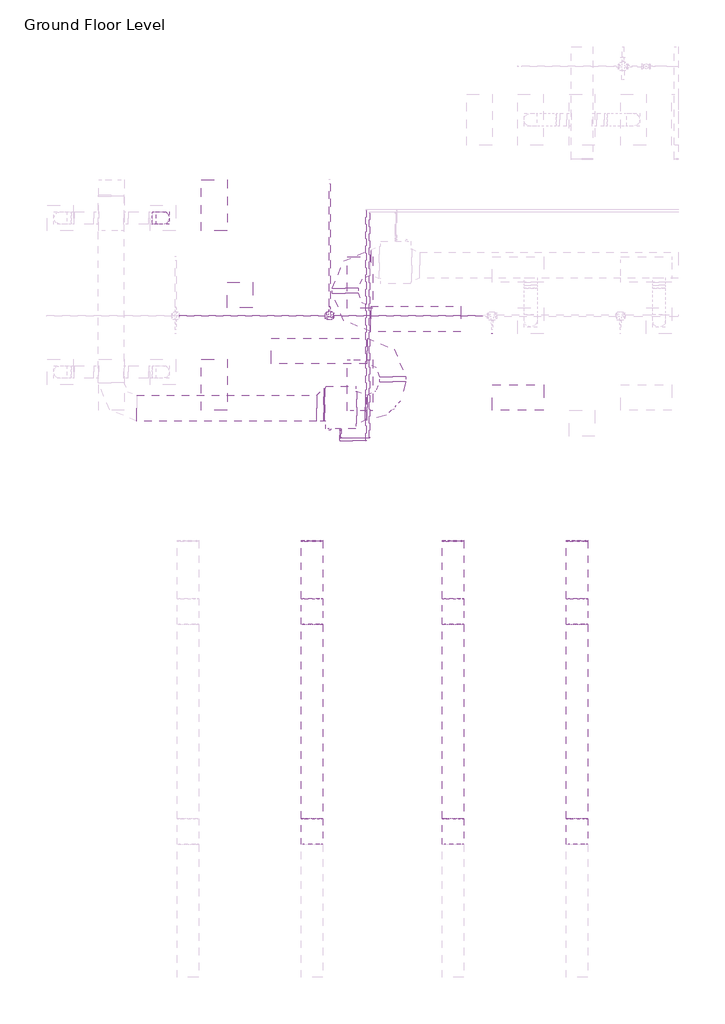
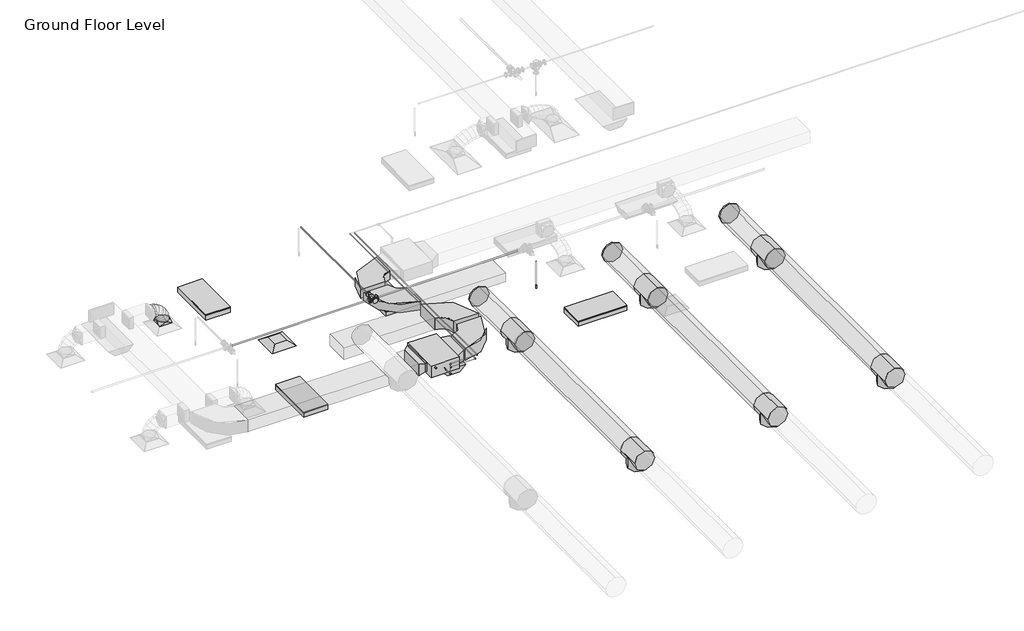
# One storey, part 11 of 74: 16 duct fittings, 14 duct segments, 12 pipe segments, 8 pipe fittings, 5 light fixtures, 1 air terminal, 1 fire suppression terminal, 1 proxy.
"""IFC4 building model written with IfcOpenShell, lengths in millimetres."""

from ifc_helpers import new_model, si_unit, point, frame, frame_2d, origin, place, context, project, spatial, polyline, circle_curve, ellipse_curve, trimmed, segment, composite_curve, outline, extrude, transform, mapped, element, save
from ifc_brep_helpers import plane_surface, cylinder_surface, advanced_brep
from components import m_return_diffuser_600_x_600_face_300_x_300_connection_ff221211, fcu_daikin_iu_7e1df382, m_rectangular_elbow_radius_1_w_907e8aaa, m_rectangular_elbow_radius_1_w_c6ed0251, m_rectangular_transition_angle_45_degree_cf32fe34, m_rectangular_transition_angle_45_degree_023bf680, m_rectangular_to_round_transition_angle_45_degree_641efff0, m_round_endcap_standard_1c45c55c, m_round_tee_standard_ed589d36, m_sprinkler_dry_pendent_hosted_15_mm_dry_pendent_9bda8e11, m_emergency_recessed_lighting_fixture_600x1200_277_5b10b25d, m_troffer_light_parabolic_rectangular1_0600x1200mm_4_lamp_86473d4a, m_elbow_generic_standard_a088f956, m_elbow_generic_standard_2a704253, m_elbow_generic_standard_4cd29557, m_elbow_generic_standard_9f216293, m_reducer_flanged_cs_class_150_standard_ccf252ad, m_tee_round_base_flanged_cs_class_150_standard_7e5987a1

model = new_model("IFC4")

# Units and contexts
model_context = context("Model", 3, world=origin())
ifc_project = project(units=[si_unit("LENGTHUNIT", "METRE", prefix="MILLI")], contexts=[model_context])

# Site, building, storey
site = spatial("IfcSite", under=ifc_project)
building = spatial("IfcBuilding", under=site)
storey = spatial("IfcBuildingStorey", under=building, Name="Ground Floor Level", Elevation=900.0)

# Air terminal
placement = place(None, origin())
m_return_diffuser_600_x_600_face_300_x_300_connection_shape = m_return_diffuser_600_x_600_face_300_x_300_connection_ff221211(model_context)
element("IfcAirTerminal", 1, ObjectType="M_Return Diffuser : 600 x 600 Face 300 x 300 Connection", at=placement, inside=storey, context=model_context, shape_type="MappedRepresentation", body=[
    mapped(m_return_diffuser_600_x_600_face_300_x_300_connection_shape, transform((-14937.2327605, -2464.7846466, 3650.0), x_axis=(1.0, 0.0, 0.0), y_axis=(0.0, 1.0, 0.0), z_axis=(0.0, 0.0, 1.0))),
])

# Proxy
fcu_daikin_iu_shape = fcu_daikin_iu_7e1df382(model_context)
element("IfcBuildingElementProxy", 2, Name="FCU-DAIKIN IU : 5.7kW, 230V/50Hz/1Ph", ObjectType="FCU-DAIKIN IU : 5.7kW, 230V/50Hz/1Ph", at=placement, inside=storey, context=model_context, shape_type="MappedRepresentation", body=[
    mapped(fcu_daikin_iu_shape, transform((-12577.2327605, -5093.8471466, 3934.0895647), x_axis=(0.0, -1.0, 0.0), y_axis=(1.0, 0.0, 0.0), z_axis=(0.0, 0.0, 1.0))),
])

# Duct fittings
m_rectangular_elbow_radius_1_w_shape = m_rectangular_elbow_radius_1_w_907e8aaa(model_context)
element("IfcDuctFitting", 3, ObjectType="M_Rectangular Elbow - Radius : 1 W", at=placement, inside=storey, context=model_context, shape_type="MappedRepresentation", body=[
    mapped(m_rectangular_elbow_radius_1_w_shape, transform((-12472.6327605, -1704.7846466, 4075.2873731), x_axis=(-1.0, 0.0, 0.0), y_axis=(0.0, -1.0, 0.0), z_axis=(0.0, 0.0, 1.0))),
])
element("IfcDuctFitting", 4, ObjectType="M_Rectangular Elbow - Radius : 1 W", at=placement, inside=storey, context=model_context, shape_type="MappedRepresentation", body=[
    mapped(m_rectangular_elbow_radius_1_w_shape, transform((-12472.6327605, -3024.7846466, 4075.2873731), x_axis=(0.0, -1.0, 0.0), y_axis=(1.0, 0.0, 0.0), z_axis=(0.0, 0.0, 1.0))),
])
m_rectangular_elbow_radius_1_w_2_shape = m_rectangular_elbow_radius_1_w_c6ed0251(model_context)
element("IfcDuctFitting", 5, ObjectType="M_Rectangular Elbow - Radius : 1 W", at=placement, inside=storey, context=model_context, shape_type="MappedRepresentation", body=[
    mapped(m_rectangular_elbow_radius_1_w_2_shape, transform((-11361.8327606, -5093.8471466, 4075.3020647), x_axis=(0.9999999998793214, 0.0, 1.5535678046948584e-05), y_axis=(0.0, 1.0000000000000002, 0.0), z_axis=(-1.5535678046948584e-05, 0.0, 0.9999999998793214))),
])
element("IfcDuctFitting", 6, ObjectType="M_Rectangular Elbow - Radius : 1 W", at=placement, inside=storey, context=model_context, shape_type="MappedRepresentation", body=[
    mapped(m_rectangular_elbow_radius_1_w_2_shape, transform((-11361.8327606, -3773.8471466, 4075.3020647), x_axis=(0.0, 1.0, 0.0), y_axis=(-1.0, 0.0, 0.0), z_axis=(0.0, 0.0, 1.0))),
])
m_rectangular_transition_angle_45_degree_shape = m_rectangular_transition_angle_45_degree_cf32fe34(model_context)
element("IfcDuctFitting", 7, ObjectType="M_Rectangular Transition - Angle : 45 Degree", at=placement, inside=storey, context=model_context, shape_type="MappedRepresentation", body=[
    mapped(m_rectangular_transition_angle_45_degree_shape, transform((-12972.63276, -5030.3471466, 4100.0020647), x_axis=(-0.9999999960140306, 0.0, -8.928571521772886e-05), y_axis=(0.0, -1.0, 0.0), z_axis=(-8.928571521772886e-05, 0.0, 0.9999999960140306))),
])
m_rectangular_transition_angle_45_degree_2_shape = m_rectangular_transition_angle_45_degree_023bf680(model_context)
element("IfcDuctFitting", 8, ObjectType="M_Rectangular Transition - Angle : 45 Degree", at=placement, inside=storey, context=model_context, shape_type="MappedRepresentation", body=[
    mapped(m_rectangular_transition_angle_45_degree_2_shape, transform((-12201.8327605, -5093.8471466, 4075.2895647), x_axis=(1.0, 0.0, 0.0), y_axis=(0.0, 1.0, 0.0), z_axis=(0.0, 0.0, 1.0))),
])
m_rectangular_to_round_transition_angle_45_degree_shape = m_rectangular_to_round_transition_angle_45_degree_641efff0(model_context)
element("IfcDuctFitting", 9, ObjectType="M_Rectangular to Round Transition - Angle : 45 Degree", at=placement, inside=storey, context=model_context, shape_type="MappedRepresentation", body=[
    mapped(m_rectangular_to_round_transition_angle_45_degree_shape, transform((-16737.2327605, -664.7846466, 3751.6), x_axis=(0.0, 0.0, 1.0), y_axis=(-1.0, 0.0, 0.0), z_axis=(0.0, -1.0, 0.0))),
])
m_round_endcap_standard_shape = m_round_endcap_standard_1c45c55c(model_context)
element("IfcDuctFitting", 10, ObjectType="M_Round Endcap : Standard", at=placement, inside=storey, context=model_context, shape_type="MappedRepresentation", body=[
    mapped(m_round_endcap_standard_shape, transform((-13250.3527512, -8221.0125677, 7765.9), x_axis=(0.0, 0.9999999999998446, -5.576948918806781e-07), y_axis=(-1.0000000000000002, 0.0, 0.0), z_axis=(0.0, 5.576948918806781e-07, 0.9999999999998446))),
])
element("IfcDuctFitting", 11, ObjectType="M_Round Endcap : Standard", at=placement, inside=storey, context=model_context, shape_type="MappedRepresentation", body=[
    mapped(m_round_endcap_standard_shape, transform((-9950.3527512, -8221.0125677, 7765.9), x_axis=(0.0, 0.9999999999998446, -5.576948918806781e-07), y_axis=(-1.0000000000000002, 0.0, 0.0), z_axis=(0.0, 5.576948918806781e-07, 0.9999999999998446))),
])
element("IfcDuctFitting", 12, ObjectType="M_Round Endcap : Standard", at=placement, inside=storey, context=model_context, shape_type="MappedRepresentation", body=[
    mapped(m_round_endcap_standard_shape, transform((-7050.3527512, -8221.0125677, 7765.9), x_axis=(0.0, 0.9999999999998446, -5.576948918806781e-07), y_axis=(-1.0000000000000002, 0.0, 0.0), z_axis=(0.0, 5.576948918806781e-07, 0.9999999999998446))),
])
m_round_tee_standard_shape = m_round_tee_standard_ed589d36(model_context)
element("IfcDuctFitting", 13, ObjectType="M_Round Tee : Standard", at=placement, inside=storey, context=model_context, shape_type="MappedRepresentation", body=[
    mapped(m_round_tee_standard_shape, transform((-13250.3527512, -9864.7844235, 7765.9009947), x_axis=(0.0, 0.9999999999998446, -5.576948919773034e-07), y_axis=(0.0, 5.576948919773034e-07, 0.9999999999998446), z_axis=(1.0, 0.0, 0.0))),
])
element("IfcDuctFitting", 14, ObjectType="M_Round Tee : Standard", at=placement, inside=storey, context=model_context, shape_type="MappedRepresentation", body=[
    mapped(m_round_tee_standard_shape, transform((-13250.3527512, -15012.784348, 7765.9038657), x_axis=(0.0, 0.9999999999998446, -5.576948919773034e-07), y_axis=(0.0, 5.576948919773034e-07, 0.9999999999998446), z_axis=(1.0, 0.0, 0.0))),
])
element("IfcDuctFitting", 15, ObjectType="M_Round Tee : Standard", at=placement, inside=storey, context=model_context, shape_type="MappedRepresentation", body=[
    mapped(m_round_tee_standard_shape, transform((-9950.3527512, -9864.7844235, 7765.9009947), x_axis=(0.0, 0.9999999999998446, -5.576948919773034e-07), y_axis=(0.0, 5.576948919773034e-07, 0.9999999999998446), z_axis=(1.0, 0.0, 0.0))),
])
element("IfcDuctFitting", 16, ObjectType="M_Round Tee : Standard", at=placement, inside=storey, context=model_context, shape_type="MappedRepresentation", body=[
    mapped(m_round_tee_standard_shape, transform((-9950.3527512, -15012.784348, 7765.9038657), x_axis=(0.0, 0.9999999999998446, -5.576948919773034e-07), y_axis=(0.0, 5.576948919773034e-07, 0.9999999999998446), z_axis=(1.0, 0.0, 0.0))),
])
element("IfcDuctFitting", 17, ObjectType="M_Round Tee : Standard", at=placement, inside=storey, context=model_context, shape_type="MappedRepresentation", body=[
    mapped(m_round_tee_standard_shape, transform((-7050.3527512, -9864.7844235, 7765.9009947), x_axis=(0.0, 0.9999999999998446, -5.576948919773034e-07), y_axis=(0.0, 5.576948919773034e-07, 0.9999999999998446), z_axis=(1.0, 0.0, 0.0))),
])
element("IfcDuctFitting", 18, ObjectType="M_Round Tee : Standard", at=placement, inside=storey, context=model_context, shape_type="MappedRepresentation", body=[
    mapped(m_round_tee_standard_shape, transform((-7050.3527512, -15012.784348, 7765.9038657), x_axis=(0.0, 0.9999999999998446, -5.576948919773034e-07), y_axis=(0.0, 5.576948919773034e-07, 0.9999999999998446), z_axis=(1.0, 0.0, 0.0))),
])

# Duct segments
element("IfcDuctSegment", 19, ObjectType="Flex - Round", at=placement, inside=storey, context=model_context, shape_type="AdvancedBrep", body=[
    advanced_brep(
    [(-16587.2327605, -664.7846466, 3826.6), (-16737.2327605, -814.7846466, 3826.6), (-16887.2327605, -664.7846466, 3826.6), (-16737.2327605, -514.7846466, 3826.6), (-16587.2327605, -664.7846466, 3876.1927096), (-16737.2327605, -814.7846466, 3854.3867302), (-16887.2327605, -664.7846466, 3832.5807508), (-16737.2327605, -514.7846466, 3854.3867302), (-16611.9605873, -664.7846466, 3959.4447987), (-16751.5699162, -814.7846466, 3902.6561626), (-16891.1792451, -664.7846466, 3845.8675264), (-16751.5699162, -514.7846466, 3902.6561626), (-16666.3134835, -664.7846466, 4062.8525006), (-16790.3375927, -814.7846466, 3976.4126063), (-16914.3617019, -664.7846466, 3889.9727121), (-16790.3375927, -514.7846466, 3976.4126063), (-16749.2073595, -664.7846466, 4154.8420293), (-16847.1701043, -814.7846466, 4039.481149), (-16945.132849, -664.7846466, 3924.1202687), (-16847.1701043, -514.7846466, 4039.481149), (-16846.5982823, -664.7846466, 4217.3600851), (-16915.7017653, -814.7846466, 4083.4736083), (-16984.8052483, -664.7846466, 3949.5871315), (-16915.7017653, -514.7846466, 4083.4736083), (-16927.78853, -664.7846466, 4250.0018019), (-16956.8125972, -814.7846466, 4100.0018019), (-16985.8366644, -664.7846466, 3950.0018019), (-16956.8125972, -514.7846466, 4100.0018019), (-16989.5668899, -664.7846466, 4250.0018019), (-16989.5668899, -514.7846466, 4100.0018019), (-16989.5668899, -664.7846466, 3950.0018019), (-16989.5668899, -814.7846466, 4100.0018019)],
    [
        (0, 1, circle_curve(frame((-16737.2327605, -664.7846466, 3826.6), z_axis=(0.0, 0.0, -1.0), x_axis=(1.0, 0.0, 0.0)), 150.0)),
        (1, 2, circle_curve(frame((-16737.2327605, -664.7846466, 3826.6), z_axis=(0.0, 0.0, -1.0), x_axis=(1.0, 0.0, 0.0)), 150.0)),
        (2, 3, circle_curve(frame((-16737.2327605, -664.7846466, 3826.6), z_axis=(0.0, 0.0, -1.0), x_axis=(1.0, 0.0, 0.0)), 150.0)),
        (3, 0, circle_curve(frame((-16737.2327605, -664.7846466, 3826.6), z_axis=(0.0, 0.0, -1.0), x_axis=(1.0, 0.0, 0.0)), 150.0)),
        (0, 4),
        (4, 5, ellipse_curve(frame((-16737.2327605, -664.7846466, 3854.3867302), z_axis=(0.1438610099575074, 0.0, -0.9895979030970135), x_axis=(-0.9895979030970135, 0.0, -0.14386100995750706)), 151.5767157, 150.0)),
        (5, 1),
        (5, 6, ellipse_curve(frame((-16737.2327605, -664.7846466, 3854.3867302), z_axis=(0.1438610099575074, 0.0, -0.9895979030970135), x_axis=(-0.9895979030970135, 0.0, -0.14386100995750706)), 151.5767157, 150.0)),
        (6, 2),
        (6, 7, ellipse_curve(frame((-16737.2327605, -664.7846466, 3854.3867302), z_axis=(0.1438610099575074, 0.0, -0.9895979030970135), x_axis=(-0.9895979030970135, 0.0, -0.14386100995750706)), 151.5767157, 150.0)),
        (7, 3),
        (7, 4, ellipse_curve(frame((-16737.2327605, -664.7846466, 3854.3867302), z_axis=(0.1438610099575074, 0.0, -0.9895979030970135), x_axis=(-0.9895979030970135, 0.0, -0.14386100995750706)), 151.5767157, 150.0)),
        (4, 8),
        (8, 9, ellipse_curve(frame((-16751.5699162, -664.7846466, 3902.6561626), z_axis=(0.37678902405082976, 0.0, -0.9262991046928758), x_axis=(-0.9262991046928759, 0.0, -0.37678902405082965)), 150.7173312, 150.0)),
        (9, 5),
        (9, 10, ellipse_curve(frame((-16751.5699162, -664.7846466, 3902.6561626), z_axis=(0.37678902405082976, 0.0, -0.9262991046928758), x_axis=(-0.9262991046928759, 0.0, -0.37678902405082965)), 150.7173312, 150.0)),
        (10, 6),
        (10, 11, ellipse_curve(frame((-16751.5699162, -664.7846466, 3902.6561626), z_axis=(0.37678902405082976, 0.0, -0.9262991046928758), x_axis=(-0.9262991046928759, 0.0, -0.37678902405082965)), 150.7173312, 150.0)),
        (11, 7),
        (11, 8, ellipse_curve(frame((-16751.5699162, -664.7846466, 3902.6561626), z_axis=(0.37678902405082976, 0.0, -0.9262991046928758), x_axis=(-0.9262991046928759, 0.0, -0.37678902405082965)), 150.7173312, 150.0)),
        (8, 12),
        (12, 13, ellipse_curve(frame((-16790.3375927, -664.7846466, 3976.4126063), z_axis=(0.5717875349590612, 0.0, -0.8204017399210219), x_axis=(-0.8204017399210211, 0.0, -0.5717875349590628)), 151.174849, 150.0)),
        (13, 9),
        (13, 14, ellipse_curve(frame((-16790.3375927, -664.7846466, 3976.4126063), z_axis=(0.5717875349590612, 0.0, -0.8204017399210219), x_axis=(-0.8204017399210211, 0.0, -0.5717875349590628)), 151.174849, 150.0)),
        (14, 10),
        (14, 15, ellipse_curve(frame((-16790.3375927, -664.7846466, 3976.4126063), z_axis=(0.5717875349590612, 0.0, -0.8204017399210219), x_axis=(-0.8204017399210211, 0.0, -0.5717875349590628)), 151.174849, 150.0)),
        (15, 11),
        (15, 12, ellipse_curve(frame((-16790.3375927, -664.7846466, 3976.4126063), z_axis=(0.5717875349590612, 0.0, -0.8204017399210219), x_axis=(-0.8204017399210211, 0.0, -0.5717875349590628)), 151.174849, 150.0)),
        (12, 16),
        (16, 17, ellipse_curve(frame((-16847.1701043, -664.7846466, 4039.481149), z_axis=(0.7622457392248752, 0.0, -0.6472877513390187), x_axis=(-0.6472877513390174, 0.0, -0.7622457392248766)), 151.3434242, 150.0)),
        (17, 13),
        (17, 18, ellipse_curve(frame((-16847.1701043, -664.7846466, 4039.481149), z_axis=(0.7622457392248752, 0.0, -0.6472877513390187), x_axis=(-0.6472877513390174, 0.0, -0.7622457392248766)), 151.3434242, 150.0)),
        (18, 14),
        (18, 19, ellipse_curve(frame((-16847.1701043, -664.7846466, 4039.481149), z_axis=(0.7622457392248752, 0.0, -0.6472877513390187), x_axis=(-0.6472877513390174, 0.0, -0.7622457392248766)), 151.3434242, 150.0)),
        (19, 15),
        (19, 16, ellipse_curve(frame((-16847.1701043, -664.7846466, 4039.481149), z_axis=(0.7622457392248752, 0.0, -0.6472877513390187), x_axis=(-0.6472877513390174, 0.0, -0.7622457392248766)), 151.3434242, 150.0)),
        (16, 20),
        (20, 21, ellipse_curve(frame((-16915.7017653, -664.7846466, 4083.4736083), z_axis=(0.8886185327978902, 0.0, -0.45864703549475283), x_axis=(-0.4586470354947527, 0.0, -0.8886185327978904)), 150.6681122, 150.0)),
        (21, 17),
        (21, 22, ellipse_curve(frame((-16915.7017653, -664.7846466, 4083.4736083), z_axis=(0.8886185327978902, 0.0, -0.45864703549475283), x_axis=(-0.4586470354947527, 0.0, -0.8886185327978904)), 150.6681122, 150.0)),
        (22, 18),
        (22, 23, ellipse_curve(frame((-16915.7017653, -664.7846466, 4083.4736083), z_axis=(0.8886185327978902, 0.0, -0.45864703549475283), x_axis=(-0.4586470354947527, 0.0, -0.8886185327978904)), 150.6681122, 150.0)),
        (23, 19),
        (23, 20, ellipse_curve(frame((-16915.7017653, -664.7846466, 4083.4736083), z_axis=(0.8886185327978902, 0.0, -0.45864703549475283), x_axis=(-0.4586470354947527, 0.0, -0.8886185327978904)), 150.6681122, 150.0)),
        (20, 24),
        (24, 25, ellipse_curve(frame((-16956.8125972, -664.7846466, 4100.0018019), z_axis=(0.9817898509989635, 0.0, -0.18997023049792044), x_axis=(-0.18997023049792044, 0.0, -0.9817898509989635)), 152.7821864, 150.0)),
        (25, 21),
        (25, 26, ellipse_curve(frame((-16956.8125972, -664.7846466, 4100.0018019), z_axis=(0.9817898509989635, 0.0, -0.18997023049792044), x_axis=(-0.18997023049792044, 0.0, -0.9817898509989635)), 152.7821864, 150.0)),
        (26, 22),
        (26, 27, ellipse_curve(frame((-16956.8125972, -664.7846466, 4100.0018019), z_axis=(0.9817898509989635, 0.0, -0.18997023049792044), x_axis=(-0.18997023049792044, 0.0, -0.9817898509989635)), 152.7821864, 150.0)),
        (27, 23),
        (27, 24, ellipse_curve(frame((-16956.8125972, -664.7846466, 4100.0018019), z_axis=(0.9817898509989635, 0.0, -0.18997023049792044), x_axis=(-0.18997023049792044, 0.0, -0.9817898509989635)), 152.7821864, 150.0)),
        (28, 29, circle_curve(frame((-16989.5668899, -664.7846466, 4100.0018019), z_axis=(-1.0, 0.0, 0.0), x_axis=(0.0, 0.0, 1.0)), 150.0)),
        (29, 30, circle_curve(frame((-16989.5668899, -664.7846466, 4100.0018019), z_axis=(-1.0, 0.0, 0.0), x_axis=(0.0, 0.0, 1.0)), 150.0)),
        (30, 31, circle_curve(frame((-16989.5668899, -664.7846466, 4100.0018019), z_axis=(-1.0, 0.0, 0.0), x_axis=(0.0, 0.0, 1.0)), 150.0)),
        (31, 28, circle_curve(frame((-16989.5668899, -664.7846466, 4100.0018019), z_axis=(-1.0, 0.0, 0.0), x_axis=(0.0, 0.0, 1.0)), 150.0)),
        (24, 28),
        (31, 25),
        (30, 26),
        (29, 27),
    ],
    [
        plane_surface(frame((-16737.2327605, -814.7846466, 3826.6), z_axis=(0.0, 0.0, -1.0), x_axis=(1.0, 0.0, 0.0))),
        cylinder_surface(frame((-16737.2327605, -664.7846466, 3826.6), z_axis=(0.0, 0.0, -1.0), x_axis=(1.0, 0.0, 0.0)), 150.0),
        cylinder_surface(frame((-16737.2327605, -664.7846466, 3854.3867302), z_axis=(0.28472910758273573, 0.0, -0.958608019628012), x_axis=(0.958608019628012, 0.0, 0.28472910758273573)), 150.0),
        cylinder_surface(frame((-16751.5699162, -664.7846466, 3902.6561626), z_axis=(0.46526232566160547, 0.0, -0.8851728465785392), x_axis=(0.8851728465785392, 0.0, 0.46526232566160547)), 150.0),
        cylinder_surface(frame((-16790.3375927, -664.7846466, 3976.4126063), z_axis=(0.6694254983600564, 0.0, -0.7428791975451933), x_axis=(0.7428791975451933, 0.0, 0.6694254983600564)), 150.0),
        cylinder_surface(frame((-16847.1701043, -664.7846466, 4039.481149), z_axis=(0.8415335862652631, 0.0, -0.5402047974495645), x_axis=(0.5402047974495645, 0.0, 0.8415335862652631)), 150.0),
        cylinder_surface(frame((-16915.7017653, -664.7846466, 4083.4736083), z_axis=(0.9278226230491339, 0.0, -0.3730216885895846), x_axis=(0.3730216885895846, 0.0, 0.9278226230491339)), 150.0),
        plane_surface(frame((-16989.5668899, -664.7846466, 3950.0018019), z_axis=(-1.0, 0.0, 0.0), x_axis=(0.0, -1.0, 0.0))),
        cylinder_surface(frame((-16956.8125972, -664.7846466, 4100.0018019), z_axis=(1.0, 0.0, 0.0), x_axis=(0.0, 0.0, 1.0)), 150.0),
    ],
    [
        (0, [[1, 2, 3, 4]]),
        (1, [[-1, 5, 6, 7]]),
        (1, [[-2, -7, 8, 9]]),
        (1, [[-3, -9, 10, 11]]),
        (1, [[-4, -11, 12, -5]]),
        (2, [[-6, 13, 14, 15]]),
        (2, [[-8, -15, 16, 17]]),
        (2, [[-10, -17, 18, 19]]),
        (2, [[-12, -19, 20, -13]]),
        (3, [[-14, 21, 22, 23]]),
        (3, [[-16, -23, 24, 25]]),
        (3, [[-18, -25, 26, 27]]),
        (3, [[-20, -27, 28, -21]]),
        (4, [[-22, 29, 30, 31]]),
        (4, [[-24, -31, 32, 33]]),
        (4, [[-26, -33, 34, 35]]),
        (4, [[-28, -35, 36, -29]]),
        (5, [[-30, 37, 38, 39]]),
        (5, [[-32, -39, 40, 41]]),
        (5, [[-34, -41, 42, 43]]),
        (5, [[-36, -43, 44, -37]]),
        (6, [[-38, 45, 46, 47]]),
        (6, [[-40, -47, 48, 49]]),
        (6, [[-42, -49, 50, 51]]),
        (6, [[-44, -51, 52, -45]]),
        (7, [[53, 54, 55, 56]]),
        (8, [[-46, 57, -56, 58]]),
        (8, [[-48, -58, -55, 59]]),
        (8, [[-50, -59, -54, 60]]),
        (8, [[-52, -60, -53, -57]]),
    ],
),
])
element("IfcDuctSegment", 20, ObjectType="Radius Elbows / Taps", at=placement, inside=storey, context=model_context, shape_type="SweptSolid", body=[
    extrude(outline(polyline([(-12772.6327605, -2304.7846466), (-12172.6327605, -2304.7846466), (-12172.6327605, -2424.7846466), (-12772.6327605, -2424.7846466), (-12772.6327605, -2304.7846466)])), frame((0.0, 0.0, 3968.2873731), z_axis=(0.0, 0.0, 1.0), x_axis=(1.0, 0.0, 0.0)), (0.0, 0.0, 1.0), 214.0),
])
element("IfcDuctSegment", 21, ObjectType="Radius Elbows / Taps", at=placement, inside=storey, context=model_context, shape_type="SweptSolid", body=[
    extrude(outline(polyline([(-11872.6327605, -3324.7846466), (-11872.6327605, -2724.7846466), (-9772.6327605, -2724.7846466), (-9772.6327605, -3324.7846466), (-11872.6327605, -3324.7846466)])), frame((0.0, 0.0, 3968.2873731), z_axis=(0.0, 0.0, 1.0), x_axis=(1.0, 0.0, 0.0)), (0.0, 0.0, 1.0), 214.0),
])
element("IfcDuctSegment", 22, ObjectType="Radius Elbows / Taps", at=placement, inside=storey, context=model_context, shape_type="SweptSolid", body=[
    extrude(outline(polyline([(0.0, -600.0), (0.0, 0.0), (4213.5254116, 0.0), (4213.5254116, -600.0), (0.0, -600.0)])), frame((-17348.0336749, -4811.2846466, 3950.0), z_axis=(3.3610180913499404e-06, 0.0, 0.9999999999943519), x_axis=(0.9999999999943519, 0.0, -3.3610180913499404e-06)), (0.0, 0.0, 1.0), 300.0),
])
element("IfcDuctSegment", 23, ObjectType="Radius Elbows / Taps", at=placement, inside=storey, context=model_context, shape_type="SweptSolid", body=[
    extrude(outline(polyline([(-12952.6327605, -4649.4096466), (-12952.6327605, -5411.2846466), (-12972.63276, -5411.2846466), (-12972.63276, -4649.4096466), (-12952.6327605, -4649.4096466)])), frame((0.0, 0.0, 3992.8645647), z_axis=(0.0, 0.0, 1.0), x_axis=(1.0, 0.0, 0.0)), (0.0, 0.0, 1.0), 214.275),
])
element("IfcDuctSegment", 24, ObjectType="Radius Elbows / Taps", at=placement, inside=storey, context=model_context, shape_type="SweptSolid", body=[
    extrude(outline(polyline([(0.0, -600.0), (0.0, 0.0), (44.5995899, 0.0), (44.5995899, -600.0), (0.0, -600.0)])), frame((-12006.4216599, -4793.8471466, 3925.2895651), z_axis=(-7.126956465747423e-05, 0.0, 0.9999999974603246), x_axis=(0.9999999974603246, 0.0, 7.126956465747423e-05)), (0.0, 0.0, 1.0), 300.0),
])
element("IfcDuctSegment", 25, ObjectType="Radius Elbows / Taps", at=placement, inside=storey, context=model_context, shape_type="SweptSolid", body=[
    extrude(outline(polyline([(-11061.8327606, -4493.8471466), (-11661.8327606, -4493.8471466), (-11661.8327606, -4373.8471466), (-11061.8327606, -4373.8471466), (-11061.8327606, -4493.8471466)])), frame((0.0, 0.0, 3925.3020647), z_axis=(0.0, 0.0, 1.0), x_axis=(1.0, 0.0, 0.0)), (0.0, 0.0, 1.0), 300.0),
])
element("IfcDuctSegment", 26, ObjectType="Radius Elbows / Taps", at=placement, inside=storey, context=model_context, shape_type="SweptSolid", body=[
    extrude(outline(polyline([(-11961.8327606, -3473.8471466), (-11961.8327606, -4073.8471466), (-14201.8327606, -4073.8471466), (-14201.8327606, -3473.8471466), (-11961.8327606, -3473.8471466)])), frame((0.0, 0.0, 3925.3020647), z_axis=(0.0, 0.0, 1.0), x_axis=(1.0, 0.0, 0.0)), (0.0, 0.0, 1.0), 300.0),
])
element("IfcDuctSegment", 27, ObjectType="Tees", at=placement, inside=storey, context=model_context, shape_type="SweptSolid", body=[
    extrude(outline(composite_curve([segment(trimmed(circle_curve(frame_2d((7765.9008274, -13250.3527512)), 250.0), [point((7765.9008274, -13500.3527512))], [point((7515.9008274, -13250.3527512))], False, "CARTESIAN"), True, "CONTINUOUS"), segment(trimmed(circle_curve(frame_2d((7765.9008274, -13250.3527512)), 250.0), [point((7515.9008274, -13250.3527512))], [point((7765.9008274, -13000.3527512))], False, "CARTESIAN"), True, "CONTINUOUS"), segment(trimmed(circle_curve(frame_2d((7765.9008274, -13250.3527512)), 250.0), [point((7765.9008274, -13000.3527512))], [point((8015.9008274, -13250.3527512))], False, "CARTESIAN"), True, "CONTINUOUS"), segment(trimmed(circle_curve(frame_2d((7765.9008274, -13250.3527512)), 250.0), [point((8015.9008274, -13250.3527512))], [point((7765.9008274, -13500.3527512))], False, "CARTESIAN"), True, "CONTINUOUS")], self_intersect=False)), frame((0.0, -9564.7844235, 0.0), z_axis=(0.0, 1.0, 0.0), x_axis=(0.0, 0.0, 1.0)), (0.0, 0.0, 1.0), 1343.7718558),
])
element("IfcDuctSegment", 28, ObjectType="Tees", at=placement, inside=storey, context=model_context, shape_type="SweptSolid", body=[
    extrude(outline(composite_curve([segment(trimmed(circle_curve(frame_2d((7765.901162, -13250.3527512)), 250.0), [point((7765.901162, -13500.3527512))], [point((7515.901162, -13250.3527512))], False, "CARTESIAN"), True, "CONTINUOUS"), segment(trimmed(circle_curve(frame_2d((7765.901162, -13250.3527512)), 250.0), [point((7515.901162, -13250.3527512))], [point((7765.901162, -13000.3527512))], False, "CARTESIAN"), True, "CONTINUOUS"), segment(trimmed(circle_curve(frame_2d((7765.901162, -13250.3527512)), 250.0), [point((7765.901162, -13000.3527512))], [point((8015.901162, -13250.3527512))], False, "CARTESIAN"), True, "CONTINUOUS"), segment(trimmed(circle_curve(frame_2d((7765.901162, -13250.3527512)), 250.0), [point((8015.901162, -13250.3527512))], [point((7765.901162, -13500.3527512))], False, "CARTESIAN"), True, "CONTINUOUS")], self_intersect=False)), frame((0.0, -14712.784348, 0.0), z_axis=(0.0, 1.0, 0.0), x_axis=(0.0, 0.0, 1.0)), (0.0, 0.0, 1.0), 4547.9999245),
])
element("IfcDuctSegment", 29, ObjectType="Tees", at=placement, inside=storey, context=model_context, shape_type="SweptSolid", body=[
    extrude(outline(composite_curve([segment(trimmed(circle_curve(frame_2d((7765.9008274, -9950.3527512)), 250.0), [point((7765.9008274, -10200.3527512))], [point((7515.9008274, -9950.3527512))], False, "CARTESIAN"), True, "CONTINUOUS"), segment(trimmed(circle_curve(frame_2d((7765.9008274, -9950.3527512)), 250.0), [point((7515.9008274, -9950.3527512))], [point((7765.9008274, -9700.3527512))], False, "CARTESIAN"), True, "CONTINUOUS"), segment(trimmed(circle_curve(frame_2d((7765.9008274, -9950.3527512)), 250.0), [point((7765.9008274, -9700.3527512))], [point((8015.9008274, -9950.3527512))], False, "CARTESIAN"), True, "CONTINUOUS"), segment(trimmed(circle_curve(frame_2d((7765.9008274, -9950.3527512)), 250.0), [point((8015.9008274, -9950.3527512))], [point((7765.9008274, -10200.3527512))], False, "CARTESIAN"), True, "CONTINUOUS")], self_intersect=False)), frame((0.0, -9564.7844235, 0.0), z_axis=(0.0, 1.0, 0.0), x_axis=(0.0, 0.0, 1.0)), (0.0, 0.0, 1.0), 1343.7718558),
])
element("IfcDuctSegment", 30, ObjectType="Tees", at=placement, inside=storey, context=model_context, shape_type="SweptSolid", body=[
    extrude(outline(composite_curve([segment(trimmed(circle_curve(frame_2d((7765.901162, -9950.3527512)), 250.0), [point((7765.901162, -10200.3527512))], [point((7515.901162, -9950.3527512))], False, "CARTESIAN"), True, "CONTINUOUS"), segment(trimmed(circle_curve(frame_2d((7765.901162, -9950.3527512)), 250.0), [point((7515.901162, -9950.3527512))], [point((7765.901162, -9700.3527512))], False, "CARTESIAN"), True, "CONTINUOUS"), segment(trimmed(circle_curve(frame_2d((7765.901162, -9950.3527512)), 250.0), [point((7765.901162, -9700.3527512))], [point((8015.901162, -9950.3527512))], False, "CARTESIAN"), True, "CONTINUOUS"), segment(trimmed(circle_curve(frame_2d((7765.901162, -9950.3527512)), 250.0), [point((8015.901162, -9950.3527512))], [point((7765.901162, -10200.3527512))], False, "CARTESIAN"), True, "CONTINUOUS")], self_intersect=False)), frame((0.0, -14712.784348, 0.0), z_axis=(0.0, 1.0, 0.0), x_axis=(0.0, 0.0, 1.0)), (0.0, 0.0, 1.0), 4547.9999245),
])
element("IfcDuctSegment", 31, ObjectType="Tees", at=placement, inside=storey, context=model_context, shape_type="SweptSolid", body=[
    extrude(outline(composite_curve([segment(trimmed(circle_curve(frame_2d((7765.9008274, -7050.3527512)), 250.0), [point((7765.9008274, -7300.3527512))], [point((7515.9008274, -7050.3527512))], False, "CARTESIAN"), True, "CONTINUOUS"), segment(trimmed(circle_curve(frame_2d((7765.9008274, -7050.3527512)), 250.0), [point((7515.9008274, -7050.3527512))], [point((7765.9008274, -6800.3527512))], False, "CARTESIAN"), True, "CONTINUOUS"), segment(trimmed(circle_curve(frame_2d((7765.9008274, -7050.3527512)), 250.0), [point((7765.9008274, -6800.3527512))], [point((8015.9008274, -7050.3527512))], False, "CARTESIAN"), True, "CONTINUOUS"), segment(trimmed(circle_curve(frame_2d((7765.9008274, -7050.3527512)), 250.0), [point((8015.9008274, -7050.3527512))], [point((7765.9008274, -7300.3527512))], False, "CARTESIAN"), True, "CONTINUOUS")], self_intersect=False)), frame((0.0, -9564.7844235, 0.0), z_axis=(0.0, 1.0, 0.0), x_axis=(0.0, 0.0, 1.0)), (0.0, 0.0, 1.0), 1343.7718558),
])
element("IfcDuctSegment", 32, ObjectType="Tees", at=placement, inside=storey, context=model_context, shape_type="SweptSolid", body=[
    extrude(outline(composite_curve([segment(trimmed(circle_curve(frame_2d((7765.901162, -7050.3527512)), 250.0), [point((7765.901162, -7300.3527512))], [point((7515.901162, -7050.3527512))], False, "CARTESIAN"), True, "CONTINUOUS"), segment(trimmed(circle_curve(frame_2d((7765.901162, -7050.3527512)), 250.0), [point((7515.901162, -7050.3527512))], [point((7765.901162, -6800.3527512))], False, "CARTESIAN"), True, "CONTINUOUS"), segment(trimmed(circle_curve(frame_2d((7765.901162, -7050.3527512)), 250.0), [point((7765.901162, -6800.3527512))], [point((8015.901162, -7050.3527512))], False, "CARTESIAN"), True, "CONTINUOUS"), segment(trimmed(circle_curve(frame_2d((7765.901162, -7050.3527512)), 250.0), [point((8015.901162, -7050.3527512))], [point((7765.901162, -7300.3527512))], False, "CARTESIAN"), True, "CONTINUOUS")], self_intersect=False)), frame((0.0, -14712.784348, 0.0), z_axis=(0.0, 1.0, 0.0), x_axis=(0.0, 0.0, 1.0)), (0.0, 0.0, 1.0), 4547.9999245),
])

# Fire suppression terminal
m_sprinkler_dry_pendent_hosted_15_mm_dry_pendent_shape = m_sprinkler_dry_pendent_hosted_15_mm_dry_pendent_9bda8e11(model_context)
element("IfcFireSuppressionTerminal", 33, ObjectType="M_Sprinkler - Dry - Pendent - Hosted : 15 mm Dry Pendent", at=placement, inside=storey, context=model_context, shape_type="MappedRepresentation", body=[
    mapped(m_sprinkler_dry_pendent_hosted_15_mm_dry_pendent_shape, transform((-9037.2327605, -3364.7846466, 3650.0), x_axis=(1.0, 0.0, 0.0), y_axis=(0.0, -1.0, 0.0), z_axis=(0.0, 0.0, -1.0))),
])

# Light fixtures
m_emergency_recessed_lighting_fixture_600x1200_277_shape = m_emergency_recessed_lighting_fixture_600x1200_277_5b10b25d(model_context)
element("IfcLightFixture", 34, ObjectType="M_Emergency Recessed Lighting Fixture : 600x1200 - 277", at=placement, inside=storey, context=model_context, shape_type="MappedRepresentation", body=[
    mapped(m_emergency_recessed_lighting_fixture_600x1200_277_shape, transform((-12427.2327605, -5174.7846466, 3650.0), x_axis=(0.0, 1.0, 0.0), y_axis=(-1.0, 0.0, 0.0), z_axis=(0.0, 0.0, 1.0))),
])
m_troffer_light_parabolic_rectangular1_0600x1200mm_4_lamp_shape = m_troffer_light_parabolic_rectangular1_0600x1200mm_4_lamp_86473d4a(model_context)
element("IfcLightFixture", 35, ObjectType="M_Troffer Light - Parabolic Rectangular1 : 0600x1200mm(4 Lamp) - 277V 2", at=placement, inside=storey, context=model_context, shape_type="MappedRepresentation", body=[
    mapped(m_troffer_light_parabolic_rectangular1_0600x1200mm_4_lamp_shape, transform((-8418.5292589, -4805.3187145, 3650.0), x_axis=(1.0, 0.0, 0.0), y_axis=(0.0, 1.0, 0.0), z_axis=(0.0, 0.0, 1.0))),
])
element("IfcLightFixture", 36, ObjectType="M_Troffer Light - Parabolic Rectangular1 : 0600x1200mm(4 Lamp) - 277V 2", at=placement, inside=storey, context=model_context, shape_type="MappedRepresentation", body=[
    mapped(m_troffer_light_parabolic_rectangular1_0600x1200mm_4_lamp_shape, transform((-15596.6986926, -346.081145, 3650.0), x_axis=(0.0, 1.0, 0.0), y_axis=(-1.0, 0.0, 0.0), z_axis=(0.0, 0.0, 1.0))),
])
element("IfcLightFixture", 37, ObjectType="M_Troffer Light - Parabolic Rectangular1 : 0600x1200mm(4 Lamp) - 277V 2", at=placement, inside=storey, context=model_context, shape_type="MappedRepresentation", body=[
    mapped(m_troffer_light_parabolic_rectangular1_0600x1200mm_4_lamp_shape, transform((-15596.6986926, -4546.081145, 3650.0), x_axis=(0.0, 1.0, 0.0), y_axis=(-1.0, 0.0, 0.0), z_axis=(0.0, 0.0, 1.0))),
])
element("IfcLightFixture", 38, ObjectType="M_Troffer Light - Parabolic Rectangular1 : 0600x1200mm(4 Lamp) - 277V 2", at=placement, inside=storey, context=model_context, shape_type="MappedRepresentation", body=[
    mapped(m_troffer_light_parabolic_rectangular1_0600x1200mm_4_lamp_shape, transform((-12186.6986926, -2156.081145, 3650.0), x_axis=(0.0, 1.0, 0.0), y_axis=(-1.0, 0.0, 0.0), z_axis=(0.0, 0.0, 1.0))),
])

# Pipe fittings
m_elbow_generic_standard_shape = m_elbow_generic_standard_a088f956(model_context)
element("IfcPipeFitting", 39, ObjectType="M_Elbow - Generic : Standard", at=placement, inside=storey, context=model_context, shape_type="MappedRepresentation", body=[
    mapped(m_elbow_generic_standard_shape, transform((-12577.2327605, -5809.7026455, 4300.0), x_axis=(-1.0, 0.0, 0.0), y_axis=(0.0, 0.0, -1.0), z_axis=(0.0, -1.0, 0.0))),
])
element("IfcPipeFitting", 40, ObjectType="M_Elbow - Generic : Standard", at=placement, inside=storey, context=model_context, shape_type="MappedRepresentation", body=[
    mapped(m_elbow_generic_standard_shape, transform((-11906.7458667, -5809.7026455, 4300.0), x_axis=(1.0, 0.0, 0.0), y_axis=(0.0, 1.0, 0.0), z_axis=(0.0, 0.0, 1.0))),
])
m_elbow_generic_standard_2_shape = m_elbow_generic_standard_2a704253(model_context)
element("IfcPipeFitting", 41, ObjectType="M_Elbow - Generic : Standard", at=placement, inside=storey, context=model_context, shape_type="MappedRepresentation", body=[
    mapped(m_elbow_generic_standard_2_shape, transform((-12602.2327605, -5874.8439862, 4265.0), x_axis=(0.0, 0.0, 1.0), y_axis=(1.0, 0.0, 0.0), z_axis=(0.0, 1.0, 0.0))),
])
element("IfcPipeFitting", 42, ObjectType="M_Elbow - Generic : Standard", at=placement, inside=storey, context=model_context, shape_type="MappedRepresentation", body=[
    mapped(m_elbow_generic_standard_2_shape, transform((-11985.4153711, -5874.8439862, 4265.0), x_axis=(1.0, 0.0, 0.0), y_axis=(0.0, 1.0, 0.0), z_axis=(0.0, 0.0, 1.0))),
])
m_elbow_generic_standard_3_shape = m_elbow_generic_standard_4cd29557(model_context)
element("IfcPipeFitting", 43, ObjectType="M_Elbow - Generic : Standard", at=placement, inside=storey, context=model_context, shape_type="MappedRepresentation", body=[
    mapped(m_elbow_generic_standard_3_shape, transform((-12577.2327605, -5809.7208827, 4034.1117864), x_axis=(0.0, 0.0, -1.0), y_axis=(0.0, 1.0, 0.0), z_axis=(1.0, 0.0, 0.0))),
])
m_elbow_generic_standard_4_shape = m_elbow_generic_standard_9f216293(model_context)
element("IfcPipeFitting", 44, ObjectType="M_Elbow - Generic : Standard", at=placement, inside=storey, context=model_context, shape_type="MappedRepresentation", body=[
    mapped(m_elbow_generic_standard_4_shape, transform((-12602.2327605, -5874.8531048, 4084.9047463), x_axis=(0.0, -0.999999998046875, 6.250000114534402e-05), y_axis=(0.0, 6.250000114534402e-05, 0.999999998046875), z_axis=(-1.0, 0.0, 0.0))),
])
m_reducer_flanged_cs_class_150_standard_shape = m_reducer_flanged_cs_class_150_standard_ccf252ad(model_context)
element("IfcPipeFitting", 45, ObjectType="M_Reducer - Flanged - CS - Class 150 : Standard", at=placement, inside=storey, context=model_context, shape_type="MappedRepresentation", body=[
    mapped(m_reducer_flanged_cs_class_150_standard_shape, transform((-12837.2327605, -2849.6406055, 4360.0), x_axis=(0.0, 1.0, 0.0), y_axis=(-1.0, 0.0, 0.0), z_axis=(0.0, 0.0, 1.0))),
])
m_tee_round_base_flanged_cs_class_150_standard_shape = m_tee_round_base_flanged_cs_class_150_standard_7e5987a1(model_context)
element("IfcPipeFitting", 46, ObjectType="M_Tee Round Base - Flanged - CS - Class 150 : Standard", at=placement, inside=storey, context=model_context, shape_type="MappedRepresentation", body=[
    mapped(m_tee_round_base_flanged_cs_class_150_standard_shape, transform((-12837.2327605, -2950.3491993, 4360.0), x_axis=(1.0, 0.0, 0.0), y_axis=(0.0, -1.0, 0.0), z_axis=(0.0, 0.0, -1.0))),
])

# Pipe segments
element("IfcPipeSegment", 47, ObjectType="Copper", at=placement, inside=storey, context=model_context, shape_type="SweptSolid", body=[
    extrude(outline(composite_curve([segment(trimmed(circle_curve(frame_2d((4300.0, -11906.7458667)), 6.5), [point((4300.0, -11913.2458667))], [point((4293.5, -11906.7458667))], False, "CARTESIAN"), True, "CONTINUOUS"), segment(trimmed(circle_curve(frame_2d((4300.0, -11906.7458667)), 6.5), [point((4293.5, -11906.7458667))], [point((4300.0, -11900.2458667))], False, "CARTESIAN"), True, "CONTINUOUS"), segment(trimmed(circle_curve(frame_2d((4300.0, -11906.7458667)), 6.5), [point((4300.0, -11900.2458667))], [point((4306.5, -11906.7458667))], False, "CARTESIAN"), True, "CONTINUOUS"), segment(trimmed(circle_curve(frame_2d((4300.0, -11906.7458667)), 6.5), [point((4306.5, -11906.7458667))], [point((4300.0, -11913.2458667))], False, "CARTESIAN"), True, "CONTINUOUS")], self_intersect=False)), frame((0.0, -5795.4151455, 0.0), z_axis=(0.0, 1.0, 0.0), x_axis=(0.0, 0.0, 1.0)), (0.0, 0.0, 1.0), 5257.1375),
])
element("IfcPipeSegment", 48, ObjectType="Copper", at=placement, inside=storey, context=model_context, shape_type="SweptSolid", body=[
    extrude(outline(composite_curve([segment(trimmed(circle_curve(frame_2d((4265.0, -11985.4153711)), 3.35), [point((4265.0, -11988.7653711))], [point((4261.65, -11985.4153711))], False, "CARTESIAN"), True, "CONTINUOUS"), segment(trimmed(circle_curve(frame_2d((4265.0, -11985.4153711)), 3.35), [point((4261.65, -11985.4153711))], [point((4265.0, -11982.0653711))], False, "CARTESIAN"), True, "CONTINUOUS"), segment(trimmed(circle_curve(frame_2d((4265.0, -11985.4153711)), 3.35), [point((4265.0, -11982.0653711))], [point((4268.35, -11985.4153711))], False, "CARTESIAN"), True, "CONTINUOUS"), segment(trimmed(circle_curve(frame_2d((4265.0, -11985.4153711)), 3.35), [point((4268.35, -11985.4153711))], [point((4265.0, -11988.7653711))], False, "CARTESIAN"), True, "CONTINUOUS")], self_intersect=False)), frame((0.0, -5863.7064862, 0.0), z_axis=(0.0, 1.0, 0.0), x_axis=(0.0, 0.0, 1.0)), (0.0, 0.0, 1.0), 5386.5875),
])
element("IfcPipeSegment", 49, ObjectType="Copper", at=placement, inside=storey, context=model_context, shape_type="SweptSolid", body=[
    extrude(outline(composite_curve([segment(trimmed(circle_curve(frame_2d((0.0, -6.5)), 6.5), [point((0.0, -13.0))], [point((-6.5, -6.5))], False, "CARTESIAN"), True, "CONTINUOUS"), segment(trimmed(circle_curve(frame_2d((0.0, -6.5)), 6.5), [point((-6.5, -6.5))], [point((0.0, 0.0))], False, "CARTESIAN"), True, "CONTINUOUS"), segment(trimmed(circle_curve(frame_2d((0.0, -6.5)), 6.5), [point((0.0, 0.0))], [point((6.5000001, -6.5))], False, "CARTESIAN"), True, "CONTINUOUS"), segment(trimmed(circle_curve(frame_2d((0.0, -6.5)), 6.5), [point((6.5000001, -6.5))], [point((0.0, -13.0))], False, "CARTESIAN"), True, "CONTINUOUS")], self_intersect=False)), frame((-12583.7327605, -5631.9471466, 4034.0895647), z_axis=(0.0, -0.9999999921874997, 0.0001250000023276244), x_axis=(0.0, 0.0001250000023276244, 0.9999999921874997)), (0.0, 0.0, 1.0), 163.4880233),
])
element("IfcPipeSegment", 50, ObjectType="Copper", at=placement, inside=storey, context=model_context, shape_type="SweptSolid", body=[
    extrude(outline(composite_curve([segment(trimmed(circle_curve(frame_2d((0.0, 3.35)), 3.35), [point((0.0, 0.0))], [point((-3.35, 3.35))], False, "CARTESIAN"), True, "CONTINUOUS"), segment(trimmed(circle_curve(frame_2d((0.0, 3.35)), 3.35), [point((-3.35, 3.35))], [point((0.0, 6.7))], False, "CARTESIAN"), True, "CONTINUOUS"), segment(trimmed(circle_curve(frame_2d((0.0, 3.35)), 3.35), [point((0.0, 6.7))], [point((3.35, 3.35))], False, "CARTESIAN"), True, "CONTINUOUS"), segment(trimmed(circle_curve(frame_2d((0.0, 3.35)), 3.35), [point((3.35, 3.35))], [point((0.0, 0.0))], False, "CARTESIAN"), True, "CONTINUOUS")], self_intersect=False)), frame((-12605.5827605, -5631.9471466, 4084.8895647), z_axis=(0.0, -0.999999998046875, 6.250000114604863e-05), x_axis=(0.0, -6.250000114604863e-05, -0.999999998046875)), (0.0, 0.0, 1.0), 231.7691548),
])
element("IfcPipeSegment", 51, ObjectType="Copper", at=placement, inside=storey, context=model_context, shape_type="SweptSolid", body=[
    extrude(outline(composite_curve([segment(trimmed(circle_curve(frame_2d((-5874.8439862, 4265.0)), 3.35), [point((-5878.1939862, 4265.0))], [point((-5874.8439862, 4268.35))], False, "CARTESIAN"), True, "CONTINUOUS"), segment(trimmed(circle_curve(frame_2d((-5874.8439862, 4265.0)), 3.35), [point((-5874.8439862, 4268.35))], [point((-5871.4939862, 4265.0))], False, "CARTESIAN"), True, "CONTINUOUS"), segment(trimmed(circle_curve(frame_2d((-5874.8439862, 4265.0)), 3.35), [point((-5871.4939862, 4265.0))], [point((-5874.8439862, 4261.65))], False, "CARTESIAN"), True, "CONTINUOUS"), segment(trimmed(circle_curve(frame_2d((-5874.8439862, 4265.0)), 3.35), [point((-5874.8439862, 4261.65))], [point((-5878.1939862, 4265.0))], False, "CARTESIAN"), True, "CONTINUOUS")], self_intersect=False)), frame((-12591.0952605, 0.0, 0.0), z_axis=(1.0, 0.0, 0.0), x_axis=(0.0, 1.0, 0.0)), (0.0, 0.0, 1.0), 594.5423894),
])
element("IfcPipeSegment", 52, ObjectType="Copper", at=placement, inside=storey, context=model_context, shape_type="SweptSolid", body=[
    extrude(outline(composite_curve([segment(trimmed(circle_curve(frame_2d((-5809.7026455, 4300.0)), 6.5), [point((-5803.2026455, 4300.0))], [point((-5809.7026455, 4293.5))], False, "CARTESIAN"), True, "CONTINUOUS"), segment(trimmed(circle_curve(frame_2d((-5809.7026455, 4300.0)), 6.5), [point((-5809.7026455, 4293.5))], [point((-5816.2026455, 4300.0))], False, "CARTESIAN"), True, "CONTINUOUS"), segment(trimmed(circle_curve(frame_2d((-5809.7026455, 4300.0)), 6.5), [point((-5816.2026455, 4300.0))], [point((-5809.7026455, 4306.5))], False, "CARTESIAN"), True, "CONTINUOUS"), segment(trimmed(circle_curve(frame_2d((-5809.7026455, 4300.0)), 6.5), [point((-5809.7026455, 4306.5))], [point((-5803.2026455, 4300.0))], False, "CARTESIAN"), True, "CONTINUOUS")], self_intersect=False)), frame((-12562.9452605, 0.0, 0.0), z_axis=(1.0, 0.0, 0.0), x_axis=(0.0, 1.0, 0.0)), (0.0, 0.0, 1.0), 641.9118938),
])
element("IfcPipeSegment", 53, ObjectType="Copper", at=placement, inside=storey, context=model_context, shape_type="SweptSolid", body=[
    extrude(outline(composite_curve([segment(trimmed(circle_curve(frame_2d((0.0, -6.5)), 6.5), [point((-6.5, -6.5))], [point((0.0, 0.0))], False, "CARTESIAN"), True, "CONTINUOUS"), segment(trimmed(circle_curve(frame_2d((0.0, -6.5)), 6.5), [point((0.0, 0.0))], [point((6.5, -6.5))], False, "CARTESIAN"), True, "CONTINUOUS"), segment(trimmed(circle_curve(frame_2d((0.0, -6.5)), 6.5), [point((6.5, -6.5))], [point((0.0, -13.0))], False, "CARTESIAN"), True, "CONTINUOUS"), segment(trimmed(circle_curve(frame_2d((0.0, -6.5)), 6.5), [point((0.0, -13.0))], [point((-6.5, -6.5))], False, "CARTESIAN"), True, "CONTINUOUS")], self_intersect=False)), frame((-12577.2327605, -5816.2208827, 4048.3980001), z_axis=(0.0, 7.684824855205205e-05, 0.9999999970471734), x_axis=(-1.0, 0.0, 0.0)), (0.0, 0.0, 1.0), 237.3150001),
])
element("IfcPipeSegment", 54, ObjectType="Copper", at=placement, inside=storey, context=model_context, shape_type="SweptSolid", body=[
    extrude(outline(composite_curve([segment(trimmed(circle_curve(frame_2d((0.0, 3.35)), 3.35), [point((-3.35, 3.35))], [point((0.0, 6.7))], False, "CARTESIAN"), True, "CONTINUOUS"), segment(trimmed(circle_curve(frame_2d((0.0, 3.35)), 3.35), [point((0.0, 6.7))], [point((3.35, 3.35))], False, "CARTESIAN"), True, "CONTINUOUS"), segment(trimmed(circle_curve(frame_2d((0.0, 3.35)), 3.35), [point((3.35, 3.35))], [point((0.0, 0.0))], False, "CARTESIAN"), True, "CONTINUOUS"), segment(trimmed(circle_curve(frame_2d((0.0, 3.35)), 3.35), [point((0.0, 0.0))], [point((-3.35, 3.35))], False, "CARTESIAN"), True, "CONTINUOUS")], self_intersect=False)), frame((-12602.2327605, -5878.2031048, 4096.0417438), z_axis=(0.0, 5.7778267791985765e-05, 0.999999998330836), x_axis=(1.0, 0.0, 0.0)), (0.0, 0.0, 1.0), 157.82095),
])
element("IfcPipeSegment", 55, ObjectType="Steel flanged", at=placement, inside=storey, context=model_context, shape_type="SweptSolid", body=[
    extrude(outline(composite_curve([segment(trimmed(circle_curve(frame_2d((-9037.2327605, -3364.7846466)), 10.668), [point((-9047.9007605, -3364.7846466))], [point((-9037.2327605, -3354.1166466))], False, "CARTESIAN"), True, "CONTINUOUS"), segment(trimmed(circle_curve(frame_2d((-9037.2327605, -3364.7846466)), 10.668), [point((-9037.2327605, -3354.1166466))], [point((-9026.5647605, -3364.7846466))], False, "CARTESIAN"), True, "CONTINUOUS"), segment(trimmed(circle_curve(frame_2d((-9037.2327605, -3364.7846466)), 10.668), [point((-9026.5647605, -3364.7846466))], [point((-9037.2327605, -3375.4526466))], False, "CARTESIAN"), True, "CONTINUOUS"), segment(trimmed(circle_curve(frame_2d((-9037.2327605, -3364.7846466)), 10.668), [point((-9037.2327605, -3375.4526466))], [point((-9047.9007605, -3364.7846466))], False, "CARTESIAN"), True, "CONTINUOUS")], self_intersect=False)), frame((0.0, 0.0, 3650.0), z_axis=(0.0, 0.0, 1.0), x_axis=(1.0, 0.0, 0.0)), (0.0, 0.0, 1.0), 616.9914062),
])
element("IfcPipeSegment", 56, ObjectType="Steel flanged", at=placement, inside=storey, context=model_context, shape_type="SweptSolid", body=[
    extrude(outline(composite_curve([segment(trimmed(circle_curve(frame_2d((4360.0, -12837.2327605)), 10.668), [point((4360.0, -12847.9007605))], [point((4349.332, -12837.2327605))], False, "CARTESIAN"), True, "CONTINUOUS"), segment(trimmed(circle_curve(frame_2d((4360.0, -12837.2327605)), 10.668), [point((4349.332, -12837.2327605))], [point((4360.0, -12826.5647605))], False, "CARTESIAN"), True, "CONTINUOUS"), segment(trimmed(circle_curve(frame_2d((4360.0, -12837.2327605)), 10.668), [point((4360.0, -12826.5647605))], [point((4370.668, -12837.2327605))], False, "CARTESIAN"), True, "CONTINUOUS"), segment(trimmed(circle_curve(frame_2d((4360.0, -12837.2327605)), 10.668), [point((4370.668, -12837.2327605))], [point((4360.0, -12847.9007605))], False, "CARTESIAN"), True, "CONTINUOUS")], self_intersect=False)), frame((0.0, -2735.6406055, 0.0), z_axis=(0.0, 1.0, 0.0), x_axis=(0.0, 0.0, 1.0)), (0.0, 0.0, 1.0), 2877.8473652),
])
element("IfcPipeSegment", 57, ObjectType="Steel flanged", at=placement, inside=storey, context=model_context, shape_type="SweptSolid", body=[
    extrude(outline(composite_curve([segment(trimmed(circle_curve(frame_2d((-2950.3491993, 4360.0)), 16.7005), [point((-2933.6486993, 4360.0))], [point((-2950.3491993, 4343.2995))], False, "CARTESIAN"), True, "CONTINUOUS"), segment(trimmed(circle_curve(frame_2d((-2950.3491993, 4360.0)), 16.7005), [point((-2950.3491993, 4343.2995))], [point((-2967.0496993, 4360.0))], False, "CARTESIAN"), True, "CONTINUOUS"), segment(trimmed(circle_curve(frame_2d((-2950.3491993, 4360.0)), 16.7005), [point((-2967.0496993, 4360.0))], [point((-2950.3491993, 4376.7005))], False, "CARTESIAN"), True, "CONTINUOUS"), segment(trimmed(circle_curve(frame_2d((-2950.3491993, 4360.0)), 16.7005), [point((-2950.3491993, 4376.7005))], [point((-2933.6486993, 4360.0))], False, "CARTESIAN"), True, "CONTINUOUS")], self_intersect=False)), frame((-16348.2327605, 0.0, 0.0), z_axis=(1.0, 0.0, 0.0), x_axis=(0.0, 1.0, 0.0)), (0.0, 0.0, 1.0), 3410.2914062),
])
element("IfcPipeSegment", 58, ObjectType="Steel flanged", at=placement, inside=storey, context=model_context, shape_type="SweptSolid", body=[
    extrude(outline(composite_curve([segment(trimmed(circle_curve(frame_2d((-2950.3491993, 4360.0)), 16.7005), [point((-2933.6486993, 4360.0))], [point((-2950.3491993, 4343.2995))], False, "CARTESIAN"), True, "CONTINUOUS"), segment(trimmed(circle_curve(frame_2d((-2950.3491993, 4360.0)), 16.7005), [point((-2950.3491993, 4343.2995))], [point((-2967.0496993, 4360.0))], False, "CARTESIAN"), True, "CONTINUOUS"), segment(trimmed(circle_curve(frame_2d((-2950.3491993, 4360.0)), 16.7005), [point((-2967.0496993, 4360.0))], [point((-2950.3491993, 4376.7005))], False, "CARTESIAN"), True, "CONTINUOUS"), segment(trimmed(circle_curve(frame_2d((-2950.3491993, 4360.0)), 16.7005), [point((-2950.3491993, 4376.7005))], [point((-2933.6486993, 4360.0))], False, "CARTESIAN"), True, "CONTINUOUS")], self_intersect=False)), frame((-12736.5241668, 0.0, 0.0), z_axis=(1.0, 0.0, 0.0), x_axis=(0.0, 1.0, 0.0)), (0.0, 0.0, 1.0), 3479.1928125),
])

save(model, "model.ifc")
